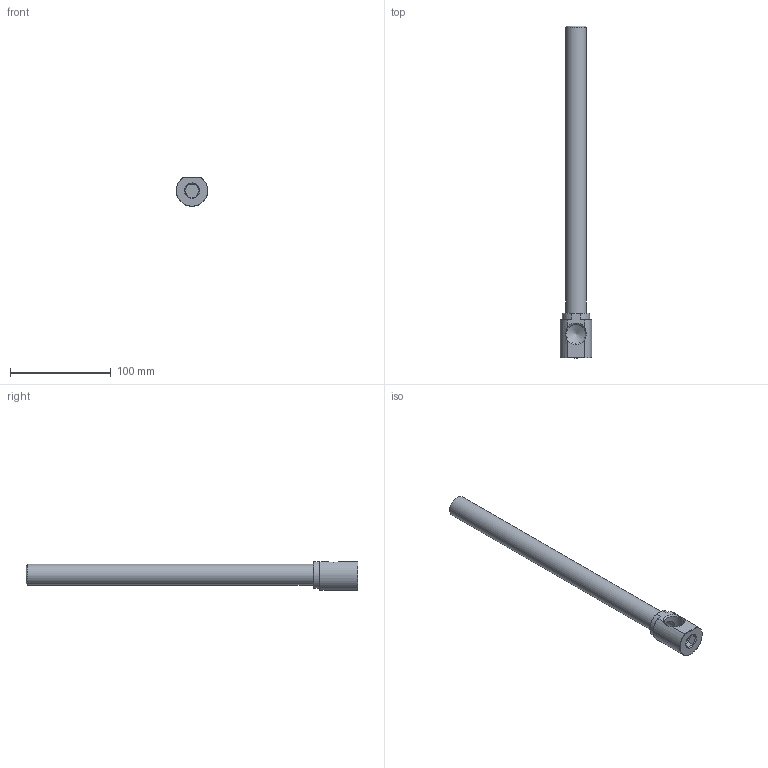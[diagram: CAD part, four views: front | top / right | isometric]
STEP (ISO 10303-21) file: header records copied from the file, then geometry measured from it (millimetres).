
FILE_DESCRIPTION(/* description */ (''),/* implementation_level */ '2;1');
FILE_NAME(/* name */ 'C:/Users/drich/Desktop/EKL50 X 13 v2.step',/* time_stamp */ '2019-11-18T14:44:27-06:00',/* author */ (''),/* organization */ (''),/* preprocessor_version */ 'ST-DEVELOPER v18',/* originating_system */ 'Autodesk Translation Framework v8.12.0.6',/* authorisation */ '');
FILE_SCHEMA (('AUTOMOTIVE_DESIGN { 1 0 10303 214 3 1 1 }'));
Length unit declared in the file: inch
Products named in the file (2): EKL50 X 13; EKL50 X 13_1
Assembly tree (1 placements, depth 2):
  EKL50 X 13
    EKL50 X 13_1
Bounding box: 31.46 x 330.2 x 28.75 mm (x, y, z)
Volume: 73887.4 mm3; surface area: 39057.8 mm2
Topology: 1 solids, 1 shells, 32 faces, 81 edges, 53 vertices
Faces by surface type: plane 16, cone 10, cylinder 6
Full cylindrical faces by diameter (mm): 14.275 x1, 14.986 x1, 18.901 x1, 20.813 x1
Entity records: 1072 total; most frequent: CARTESIAN_POINT 263, ORIENTED_EDGE 160, DIRECTION 156, EDGE_CURVE 80, AXIS2_PLACEMENT_3D 61, VERTEX_POINT 53, EDGE_LOOP 37, LINE 34
